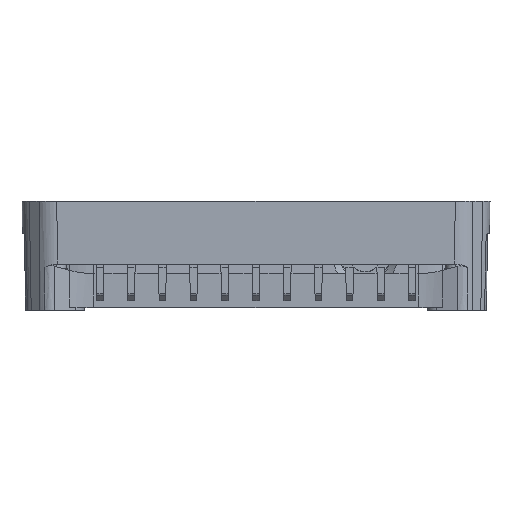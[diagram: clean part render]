
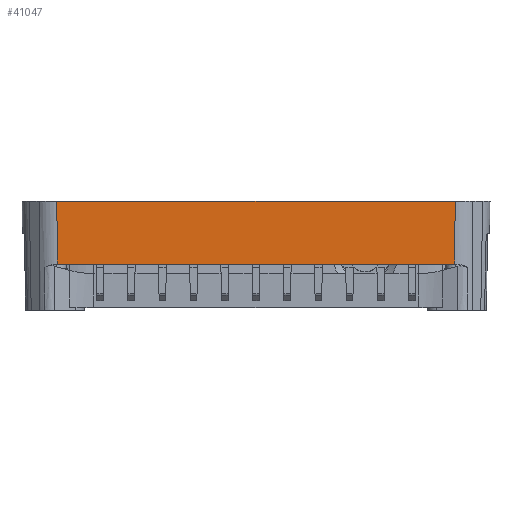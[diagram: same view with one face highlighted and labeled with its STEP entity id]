
A CAD part, top view. The second image highlights one B-rep face of the part: STEP entity #41047.
In plain terms, the highlighted planar face has unit normal (0, -0.018, 1).
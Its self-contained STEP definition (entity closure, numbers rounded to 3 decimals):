
#1558 = EDGE_CURVE ( 'NONE', #13537, #5549, #77004, .T. ) ;
#3109 = EDGE_CURVE ( 'NONE', #58267, #37030, #76852, .T. ) ;
#5549 = VERTEX_POINT ( 'NONE', #50612 ) ;
#5863 = DIRECTION ( 'NONE',  ( 1., 0., 0. ) ) ;
#7532 = ORIENTED_EDGE ( 'NONE', *, *, #3109, .F. ) ;
#9701 = DIRECTION ( 'NONE',  ( 0.007, 1., 0.017 ) ) ;
#9867 = CARTESIAN_POINT ( 'NONE',  ( -67.142, 0., 55. ) ) ;
#13537 = VERTEX_POINT ( 'NONE', #55524 ) ;
#19464 = AXIS2_PLACEMENT_3D ( 'NONE', #9867, #22489, #21956 ) ;
#20114 = LINE ( 'NONE', #28348, #56494 ) ;
#21956 = DIRECTION ( 'NONE',  ( 0., -1., -0.017 ) ) ;
#22489 = DIRECTION ( 'NONE',  ( 0., -0.017, 1. ) ) ;
#24595 = DIRECTION ( 'NONE',  ( 1., 0., 0. ) ) ;
#24597 = VECTOR ( 'NONE', #24595, 1000. ) ;
#24869 = CARTESIAN_POINT ( 'NONE',  ( -67.142, 0., 55. ) ) ;
#27731 = DIRECTION ( 'NONE',  ( 0.007, -1., -0.017 ) ) ;
#28348 = CARTESIAN_POINT ( 'NONE',  ( 63.822, -0.947, 54.983 ) ) ;
#35173 = EDGE_CURVE ( 'NONE', #58267, #13537, #35458, .T. ) ;
#35458 = LINE ( 'NONE', #45874, #79830 ) ;
#36101 = FACE_OUTER_BOUND ( 'NONE', #76419, .T. ) ;
#36827 = CARTESIAN_POINT ( 'NONE',  ( 67.07, -20.178, 54.648 ) ) ;
#37030 = VERTEX_POINT ( 'NONE', #45322 ) ;
#38357 = ORIENTED_EDGE ( 'NONE', *, *, #1558, .T. ) ;
#40848 = PLANE ( 'NONE',  #19464 ) ;
#41047 = ADVANCED_FACE ( 'NONE', ( #36101 ), #40848, .T. ) ;
#45322 = CARTESIAN_POINT ( 'NONE',  ( 63.829, 0., 55. ) ) ;
#45874 = CARTESIAN_POINT ( 'NONE',  ( -63.829, 0.024, 55. ) ) ;
#50612 = CARTESIAN_POINT ( 'NONE',  ( 63.683, -20.178, 54.648 ) ) ;
#55524 = CARTESIAN_POINT ( 'NONE',  ( -63.683, -20.178, 54.648 ) ) ;
#56494 = VECTOR ( 'NONE', #9701, 1000. ) ;
#57259 = ORIENTED_EDGE ( 'NONE', *, *, #60577, .T. ) ;
#58267 = VERTEX_POINT ( 'NONE', #58969 ) ;
#58969 = CARTESIAN_POINT ( 'NONE',  ( -63.829, 0., 55. ) ) ;
#60259 = VECTOR ( 'NONE', #5863, 1000. ) ;
#60577 = EDGE_CURVE ( 'NONE', #5549, #37030, #20114, .T. ) ;
#70527 = ORIENTED_EDGE ( 'NONE', *, *, #35173, .T. ) ;
#76419 = EDGE_LOOP ( 'NONE', ( #7532, #70527, #38357, #57259 ) ) ;
#76852 = LINE ( 'NONE', #24869, #24597 ) ;
#77004 = LINE ( 'NONE', #36827, #60259 ) ;
#79830 = VECTOR ( 'NONE', #27731, 1000. ) ;
